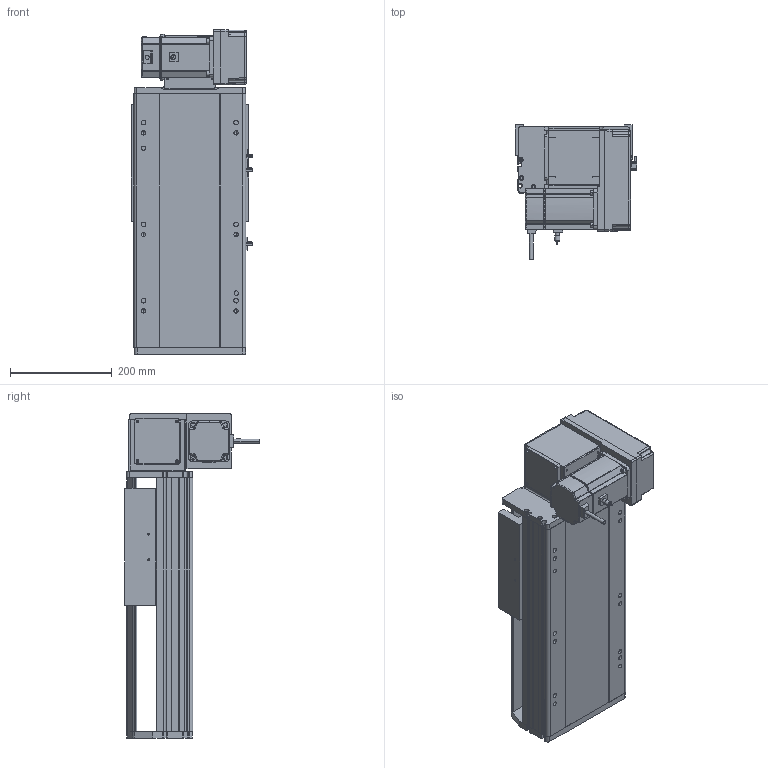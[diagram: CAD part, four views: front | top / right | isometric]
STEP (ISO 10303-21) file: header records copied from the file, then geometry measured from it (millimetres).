
FILE_DESCRIPTION (( 'STEP AP214' ), '1' );
FILE_NAME ('RTB22S-XX-150-RM-M75-C4.STEP', '2025-12-12T07:42:07', ( '' ), ( '' ), 'SwSTEP 2.0', 'SolidWorks 2018', '' );
FILE_SCHEMA (( 'AUTOMOTIVE_DESIGN' ));
Length unit declared in the file: millimetre
Products named in the file (14): 750W萇儂^RTB22S-XX-XX-RM-M75-C4; RTB22S-GY-014--々湍釱^RTB22S-RM-々湍釱蚾饜_RTB22S-XX-XX-RM-M75-C4; RTB22S-GY-018P^RTB22S-RM-々湍釱蚾饜_RTB22S-XX-XX-RM-M75-C4; RTB22S-GY-005P^RTB22S-RM-々湍釱蚾饜_RTB22S-XX-XX-RM-M75-C4; RTB22S-L-004賑釱^RTB22S-XX-XX-RM-M75-C4; RTB22S-GY-007奻裔^RTB22S-XX-XX-RM-M75-C4; RTB22S-XX-150-RM-M75-C4; RTB22S-RM-々湍釱蚾饜^RTB22S-XX-XX-RM-M75-C4; RTB22S-GY-008-M75--萇儂啣^RTB22S-RM-々湍釱蚾饜_RTB22S-XX-XX-RM-M75-C4; RTB22S-L-011菁釱^RTB22S-XX-XX-RM-M75-C4; OMRON EE-SX672 传感器^RTB22S-XX-XX-RM-M75-C4; RTB22S-GY-001耜裔^RTB22S-XX-XX-RM-M75-C4; RTH22-GY-013外置感应片^RTB22S-XX-XX-RM-M75-C4; RTB22S-GY-017P^RTB22S-RM-々湍釱蚾饜_RTB22S-XX-XX-RM-M75-C4
Assembly tree (16 placements, depth 3):
  RTB22S-XX-150-RM-M75-C4
    RTB22S-L-011菁釱^RTB22S-XX-XX-RM-M75-C4
    RTB22S-GY-001耜裔^RTB22S-XX-XX-RM-M75-C4
    750W萇儂^RTB22S-XX-XX-RM-M75-C4
    RTB22S-GY-007奻裔^RTB22S-XX-XX-RM-M75-C4
    RTB22S-L-004賑釱^RTB22S-XX-XX-RM-M75-C4
    RTH22-GY-013外置感应片^RTB22S-XX-XX-RM-M75-C4
    OMRON EE-SX672 传感器^RTB22S-XX-XX-RM-M75-C4  x3
    RTB22S-RM-々湍釱蚾饜^RTB22S-XX-XX-RM-M75-C4
      RTB22S-GY-014--々湍釱^RTB22S-RM-々湍釱蚾饜_RTB22S-XX-XX-RM-M75-C4
      RTB22S-GY-017P^RTB22S-RM-々湍釱蚾饜_RTB22S-XX-XX-RM-M75-C4  x2
      RTB22S-GY-005P^RTB22S-RM-々湍釱蚾饜_RTB22S-XX-XX-RM-M75-C4
      RTB22S-GY-008-M75--萇儂啣^RTB22S-RM-々湍釱蚾饜_RTB22S-XX-XX-RM-M75-C4
      RTB22S-GY-018P^RTB22S-RM-々湍釱蚾饜_RTB22S-XX-XX-RM-M75-C4
Bounding box: 238.5 x 264.7 x 637.5 mm (x, y, z)
Volume: 11388171.6 mm3; surface area: 1225614.3 mm2
Topology: 15 solids, 15 shells, 1893 faces, 5136 edges, 3302 vertices
Faces by surface type: plane 905, cylinder 562, bspline 296, cone 118, sphere 8, torus 4
Entity records: 49478 total; most frequent: CARTESIAN_POINT 14432, ORIENTED_EDGE 7100, DIRECTION 6744, EDGE_CURVE 3550, AXIS2_PLACEMENT_3D 2346, VERTEX_POINT 2306, VECTOR 2052, LINE 2052
